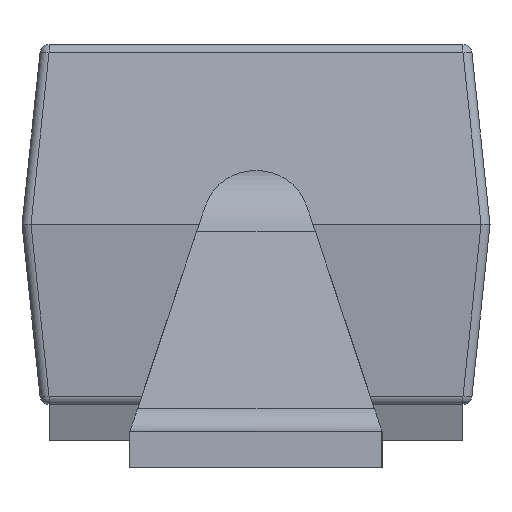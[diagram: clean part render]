
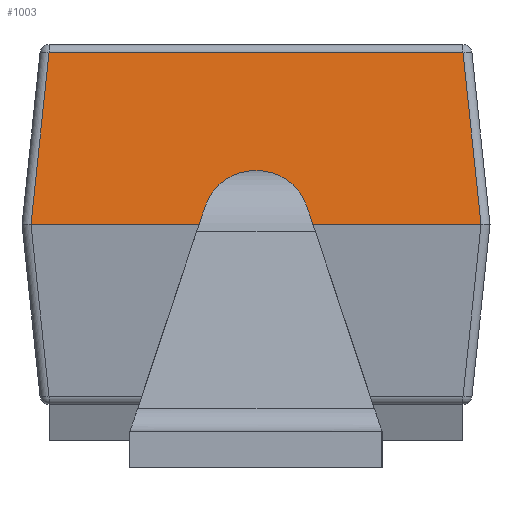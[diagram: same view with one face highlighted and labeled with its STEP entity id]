
A CAD part, left-side view. The second image highlights one B-rep face of the part: STEP entity #1003.
In plain terms, the highlighted planar face has unit normal (-0.995, 0, 0.104).
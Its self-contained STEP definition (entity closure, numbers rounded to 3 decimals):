
#120=ORIENTED_EDGE('',*,*,#418,.T.);
#121=ORIENTED_EDGE('',*,*,#419,.T.);
#122=ORIENTED_EDGE('',*,*,#420,.F.);
#123=ORIENTED_EDGE('',*,*,#421,.T.);
#418=EDGE_CURVE('',#567,#568,#655,.T.);
#419=EDGE_CURVE('',#568,#569,#656,.T.);
#420=EDGE_CURVE('',#570,#569,#657,.T.);
#421=EDGE_CURVE('',#570,#567,#658,.F.);
#567=VERTEX_POINT('',#1578);
#568=VERTEX_POINT('',#1579);
#569=VERTEX_POINT('',#1581);
#570=VERTEX_POINT('',#1583);
#655=LINE('',#1577,#750);
#656=LINE('',#1580,#751);
#657=LINE('',#1582,#752);
#658=LINE('',#1584,#753);
#750=VECTOR('',#1239,1000.);
#751=VECTOR('',#1240,1000.);
#752=VECTOR('',#1241,1000.);
#753=VECTOR('',#1242,1000.);
#836=EDGE_LOOP('',(#120,#121,#122,#123));
#903=FACE_BOUND('',#836,.T.);
#970=PLANE('',#1103);
#1003=ADVANCED_FACE('',(#903),#970,.T.);
#1103=AXIS2_PLACEMENT_3D('',#1576,#1237,#1238);
#1237=DIRECTION('',(-0.995,0.,0.105));
#1238=DIRECTION('',(0.105,0.,0.995));
#1239=DIRECTION('',(0.,1.,0.));
#1240=DIRECTION('',(-0.104,0.104,-0.989));
#1241=DIRECTION('',(0.,1.,0.));
#1242=DIRECTION('',(-0.104,-0.104,-0.989));
#1576=CARTESIAN_POINT('',(-2.048,0.,0.));
#1577=CARTESIAN_POINT('',(-1.947,1.195,0.955));
#1578=CARTESIAN_POINT('',(-1.947,-1.15,0.955));
#1579=CARTESIAN_POINT('',(-1.947,1.15,0.955));
#1580=CARTESIAN_POINT('',(-2.034,1.237,0.129));
#1581=CARTESIAN_POINT('',(-2.048,1.25,0.));
#1582=CARTESIAN_POINT('',(-2.048,0.,0.));
#1583=CARTESIAN_POINT('',(-2.048,-1.25,0.));
#1584=CARTESIAN_POINT('',(-2.034,-1.237,0.129));
